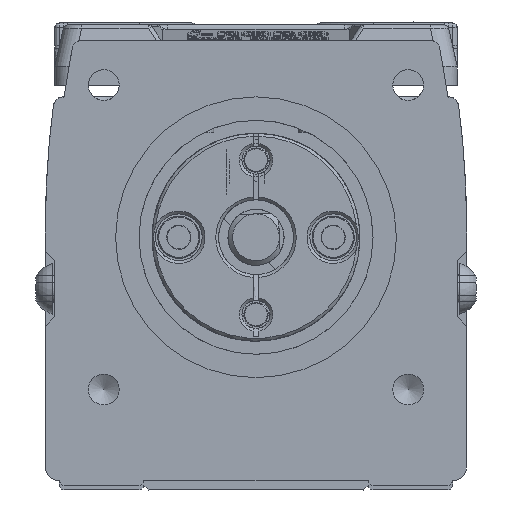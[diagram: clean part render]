
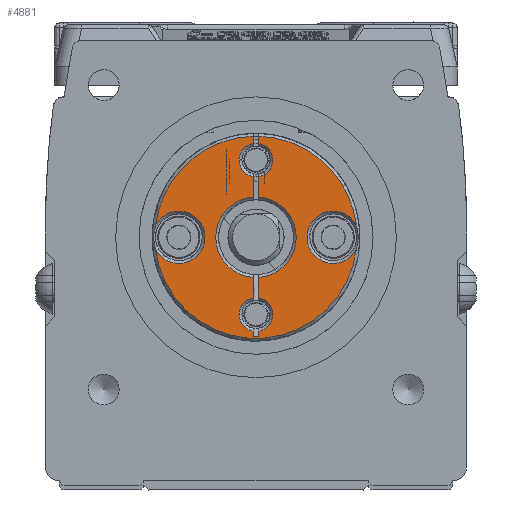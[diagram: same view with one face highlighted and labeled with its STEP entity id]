
A CAD part, left-side view. The second image highlights one B-rep face of the part: STEP entity #4881.
In plain terms, the highlighted planar face has unit normal (-1, 0, 0) as drawn and (1, 0, 0) by its records, which use the part's own axes.
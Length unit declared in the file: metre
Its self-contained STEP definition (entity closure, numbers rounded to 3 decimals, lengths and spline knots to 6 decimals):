
#4881=ADVANCED_FACE('',(#10073),#10074,.F.);
#10073=FACE_OUTER_BOUND('',#17946,.T.);
#10074=PLANE('',#17947);
#17946=EDGE_LOOP('',(#29945,#29946,#29947,#29948,#29949,#29950,#29951,#29952,#29953,#29954,#29955,#29956,#29957,#29958,#29959,#29960,#29961,#29962,#29963,#29964));
#17947=AXIS2_PLACEMENT_3D('',#29965,#29966,#29967);
#29945=ORIENTED_EDGE('',*,*,#42212,.F.);
#29946=ORIENTED_EDGE('',*,*,#39301,.T.);
#29947=ORIENTED_EDGE('',*,*,#42213,.F.);
#29948=ORIENTED_EDGE('',*,*,#42214,.F.);
#29949=ORIENTED_EDGE('',*,*,#42215,.T.);
#29950=ORIENTED_EDGE('',*,*,#41408,.T.);
#29951=ORIENTED_EDGE('',*,*,#41946,.F.);
#29952=ORIENTED_EDGE('',*,*,#42216,.F.);
#29953=ORIENTED_EDGE('',*,*,#42217,.F.);
#29954=ORIENTED_EDGE('',*,*,#42218,.T.);
#29955=ORIENTED_EDGE('',*,*,#42219,.F.);
#29956=ORIENTED_EDGE('',*,*,#42220,.F.);
#29957=ORIENTED_EDGE('',*,*,#39812,.F.);
#29958=ORIENTED_EDGE('',*,*,#41275,.F.);
#29959=ORIENTED_EDGE('',*,*,#39334,.F.);
#29960=ORIENTED_EDGE('',*,*,#41274,.F.);
#29961=ORIENTED_EDGE('',*,*,#42221,.F.);
#29962=ORIENTED_EDGE('',*,*,#41272,.F.);
#29963=ORIENTED_EDGE('',*,*,#42222,.T.);
#29964=ORIENTED_EDGE('',*,*,#42223,.F.);
#29965=CARTESIAN_POINT('',(0.0,0.0,0.));
#29966=DIRECTION('',(-1.0,0.,0.0));
#29967=DIRECTION('',(0.,-1.0,0.0));
#39301=EDGE_CURVE('',#45996,#46000,#46002,.T.);
#39334=EDGE_CURVE('',#46060,#46061,#46062,.T.);
#39812=EDGE_CURVE('',#46860,#46862,#46863,.T.);
#41272=EDGE_CURVE('',#49213,#49215,#49216,.T.);
#41274=EDGE_CURVE('',#49217,#46060,#49219,.T.);
#41275=EDGE_CURVE('',#46061,#46860,#49220,.T.);
#41408=EDGE_CURVE('',#49408,#49409,#49410,.T.);
#41946=EDGE_CURVE('',#50203,#49409,#50204,.F.);
#42212=EDGE_CURVE('',#45996,#50599,#50600,.F.);
#42213=EDGE_CURVE('',#50601,#46000,#50602,.F.);
#42214=EDGE_CURVE('',#50603,#50601,#50604,.T.);
#42215=EDGE_CURVE('',#50603,#49408,#50605,.F.);
#42216=EDGE_CURVE('',#50606,#50203,#50607,.T.);
#42217=EDGE_CURVE('',#50608,#50606,#50609,.T.);
#42218=EDGE_CURVE('',#50608,#50610,#50611,.T.);
#42219=EDGE_CURVE('',#50612,#50610,#50613,.F.);
#42220=EDGE_CURVE('',#46862,#50612,#50614,.T.);
#42221=EDGE_CURVE('',#49215,#49217,#50615,.T.);
#42222=EDGE_CURVE('',#49213,#50616,#50617,.F.);
#42223=EDGE_CURVE('',#50599,#50616,#50618,.T.);
#45996=VERTEX_POINT('',#55701);
#46000=VERTEX_POINT('',#55708);
#46002=CIRCLE('',#55713,0.0043);
#46060=VERTEX_POINT('',#55788);
#46061=VERTEX_POINT('',#55789);
#46062=CIRCLE('',#55790,0.0028);
#46860=VERTEX_POINT('',#56957);
#46862=VERTEX_POINT('',#56960);
#46863=LINE('',#56961,#56962);
#49213=VERTEX_POINT('',#60479);
#49215=VERTEX_POINT('',#60484);
#49216=CIRCLE('',#60485,0.0108);
#49217=VERTEX_POINT('',#60486);
#49219=CIRCLE('',#60493,0.0108);
#49220=CIRCLE('',#60494,0.0108);
#49408=VERTEX_POINT('',#60773);
#49409=VERTEX_POINT('',#60774);
#49410=LINE('',#60775,#60776);
#50203=VERTEX_POINT('',#62151);
#50204=LINE('',#62152,#62153);
#50599=VERTEX_POINT('',#62784);
#50600=LINE('',#62785,#62786);
#50601=VERTEX_POINT('',#62787);
#50602=LINE('',#62788,#62789);
#50603=VERTEX_POINT('',#62790);
#50604=CIRCLE('',#62791,0.0018);
#50605=LINE('',#62792,#62793);
#50606=VERTEX_POINT('',#62794);
#50607=CIRCLE('',#62795,0.0018);
#50608=VERTEX_POINT('',#62796);
#50609=LINE('',#62797,#62798);
#50610=VERTEX_POINT('',#62799);
#50611=CIRCLE('',#62800,0.0043);
#50612=VERTEX_POINT('',#62801);
#50613=LINE('',#62802,#62803);
#50614=CIRCLE('',#62804,0.0018);
#50615=CIRCLE('',#62805,0.0028);
#50616=VERTEX_POINT('',#62806);
#50617=LINE('',#62807,#62808);
#50618=CIRCLE('',#62809,0.0018);
#55701=CARTESIAN_POINT('',(0.,0.00429,-0.0003));
#55708=CARTESIAN_POINT('',(0.,-0.00429,-0.0003));
#55713=AXIS2_PLACEMENT_3D('',#68101,#68102,#68103);
#55788=CARTESIAN_POINT('',(0.,-0.001321,0.010719));
#55789=CARTESIAN_POINT('',(0.,0.001321,0.010719));
#55790=AXIS2_PLACEMENT_3D('',#68148,#68149,#68150);
#56957=CARTESIAN_POINT('',(0.,0.010796,0.0003));
#56960=CARTESIAN_POINT('',(0.,0.010025,0.0003));
#56961=CARTESIAN_POINT('',(0.0,0.0,0.0003));
#56962=VECTOR('',#68741,1.0);
#60479=CARTESIAN_POINT('',(0.,0.010796,-0.0003));
#60484=CARTESIAN_POINT('',(0.,0.001321,-0.010719));
#60485=AXIS2_PLACEMENT_3D('',#70638,#70639,#70640);
#60486=CARTESIAN_POINT('',(0.,-0.001321,-0.010719));
#60493=AXIS2_PLACEMENT_3D('',#70641,#70642,#70643);
#60494=AXIS2_PLACEMENT_3D('',#70644,#70645,#70646);
#60773=CARTESIAN_POINT('',(0.,-0.010642,-0.0003));
#60774=CARTESIAN_POINT('',(0.,-0.010642,0.0003));
#60775=CARTESIAN_POINT('',(0.,-0.010642,0.0003));
#60776=VECTOR('',#70797,1.0);
#62151=CARTESIAN_POINT('',(0.,-0.010025,0.0003));
#62152=CARTESIAN_POINT('',(0.0,0.0025,0.0003));
#62153=VECTOR('',#71460,1.0);
#62784=CARTESIAN_POINT('',(0.,0.006475,-0.0003));
#62785=CARTESIAN_POINT('',(0.0,0.0,-0.0003));
#62786=VECTOR('',#71806,1.0);
#62787=CARTESIAN_POINT('',(0.,-0.006475,-0.0003));
#62788=CARTESIAN_POINT('',(0.0,0.0,-0.0003));
#62789=VECTOR('',#71807,1.0);
#62790=CARTESIAN_POINT('',(0.,-0.010025,-0.0003));
#62791=AXIS2_PLACEMENT_3D('',#71808,#71809,#71810);
#62792=CARTESIAN_POINT('',(0.0,0.0025,-0.0003));
#62793=VECTOR('',#71811,1.0);
#62794=CARTESIAN_POINT('',(0.,-0.006475,0.0003));
#62795=AXIS2_PLACEMENT_3D('',#71812,#71813,#71814);
#62796=CARTESIAN_POINT('',(0.,-0.00429,0.0003));
#62797=CARTESIAN_POINT('',(0.0,0.0,0.0003));
#62798=VECTOR('',#71815,1.0);
#62799=CARTESIAN_POINT('',(0.0,0.00429,0.0003));
#62800=AXIS2_PLACEMENT_3D('',#71816,#71817,#71818);
#62801=CARTESIAN_POINT('',(0.0,0.006475,0.0003));
#62802=CARTESIAN_POINT('',(0.0,0.0025,0.0003));
#62803=VECTOR('',#71819,1.0);
#62804=AXIS2_PLACEMENT_3D('',#71820,#71821,#71822);
#62805=AXIS2_PLACEMENT_3D('',#71823,#71824,#71825);
#62806=CARTESIAN_POINT('',(0.,0.010025,-0.0003));
#62807=CARTESIAN_POINT('',(0.0,0.0025,-0.0003));
#62808=VECTOR('',#71826,1.0);
#62809=AXIS2_PLACEMENT_3D('',#71827,#71828,#71829);
#68101=CARTESIAN_POINT('',(0.,0.,0.));
#68102=DIRECTION('',(-1.0,0.,0.0));
#68103=DIRECTION('',(0.,-1.0,0.0));
#68148=CARTESIAN_POINT('',(0.0,0.,0.00825));
#68149=DIRECTION('',(1.0,0.,0.0));
#68150=DIRECTION('',(0.,1.0,0.0));
#68741=DIRECTION('',(0.,-1.0,0.0));
#70638=CARTESIAN_POINT('',(0.,0.0,0.));
#70639=DIRECTION('',(-1.0,0.0,0.0));
#70640=DIRECTION('',(0.0,0.0,1.0));
#70641=CARTESIAN_POINT('',(0.,0.0,0.));
#70642=DIRECTION('',(-1.0,0.0,0.0));
#70643=DIRECTION('',(0.0,0.0,1.0));
#70644=CARTESIAN_POINT('',(0.,0.0,0.));
#70645=DIRECTION('',(-1.0,0.0,0.0));
#70646=DIRECTION('',(0.0,0.0,1.0));
#70797=DIRECTION('',(0.0,0.0,1.0));
#71460=DIRECTION('',(0.0,1.0,0.0));
#71806=DIRECTION('',(0.,-1.0,0.0));
#71807=DIRECTION('',(0.,-1.0,0.0));
#71808=CARTESIAN_POINT('',(0.0,-0.00825,0.));
#71809=DIRECTION('',(1.0,0.0,0.0));
#71810=DIRECTION('',(0.0,0.0,-1.0));
#71811=DIRECTION('',(0.0,1.0,0.0));
#71812=CARTESIAN_POINT('',(0.0,-0.00825,0.));
#71813=DIRECTION('',(1.0,0.0,0.0));
#71814=DIRECTION('',(0.0,0.0,-1.0));
#71815=DIRECTION('',(0.,-1.0,0.0));
#71816=CARTESIAN_POINT('',(0.,0.,0.));
#71817=DIRECTION('',(-1.0,0.,0.0));
#71818=DIRECTION('',(0.,-1.0,0.0));
#71819=DIRECTION('',(0.0,1.0,0.0));
#71820=CARTESIAN_POINT('',(0.0,0.00825,0.));
#71821=DIRECTION('',(1.0,0.0,0.0));
#71822=DIRECTION('',(0.0,0.0,-1.0));
#71823=CARTESIAN_POINT('',(0.,0.,-0.00825));
#71824=DIRECTION('',(1.0,0.,0.0));
#71825=DIRECTION('',(0.,1.0,0.0));
#71826=DIRECTION('',(0.0,1.0,0.0));
#71827=CARTESIAN_POINT('',(0.0,0.00825,0.));
#71828=DIRECTION('',(1.0,0.0,0.0));
#71829=DIRECTION('',(0.0,0.0,-1.0));
